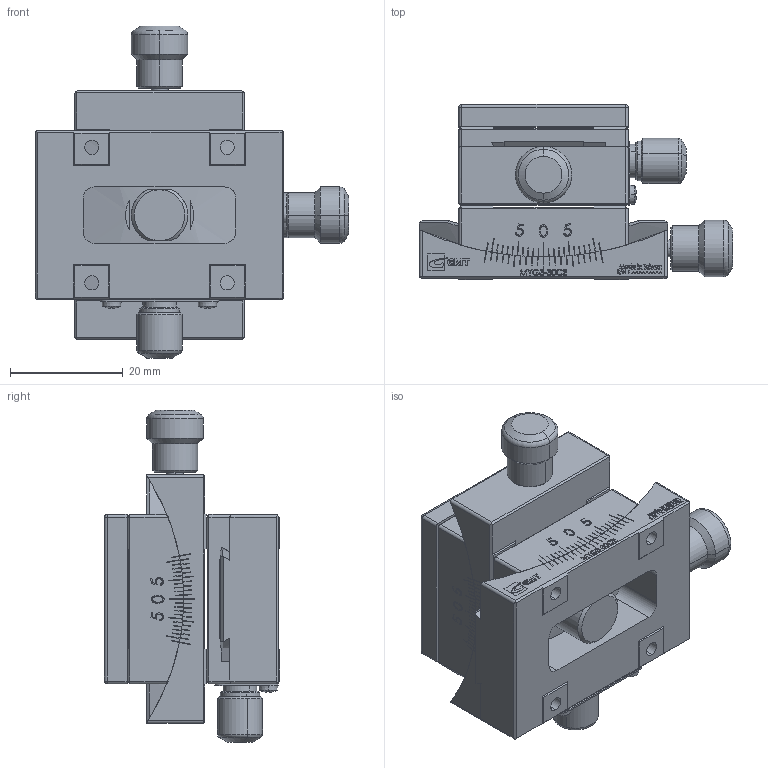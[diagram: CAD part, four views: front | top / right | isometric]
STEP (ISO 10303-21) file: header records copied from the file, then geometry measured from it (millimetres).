
FILE_DESCRIPTION (( 'STEP AP203' ), '1' );
FILE_NAME ('MYG3-30CE-(«¬¿ý).STEP', '2013-10-16T02:34:48', ( '' ), ( '' ), 'SwSTEP 2.0', 'SolidWorks 2013', '' );
FILE_SCHEMA (( 'CONFIG_CONTROL_DESIGN' ));
Length unit declared in the file: millimetre
Products named in the file (4): Group6^MYG3-30CE-(型錄); Group7^MYG3-30CE-(型錄); MYG3-30CE-(型錄); Group5^MYG3-30CE-(型錄)
Assembly tree (3 placements, depth 2):
  MYG3-30CE-(型錄)
    Group5^MYG3-30CE-(型錄)
    Group6^MYG3-30CE-(型錄)
    Group7^MYG3-30CE-(型錄)
Bounding box: 55.5 x 31 x 58.8 mm (x, y, z)
Volume: 32988.2 mm3; surface area: 18542.2 mm2
Topology: 3 solids, 3 shells, 1403 faces, 3884 edges, 2546 vertices
Faces by surface type: plane 934, bspline 207, cylinder 178, cone 64, sphere 12, torus 8
Entity records: 55922 total; most frequent: CARTESIAN_POINT 20746, ORIENTED_EDGE 7744, DIRECTION 6388, EDGE_CURVE 3872, LINE 2688, VECTOR 2688, VERTEX_POINT 2546, AXIS2_PLACEMENT_3D 1850
